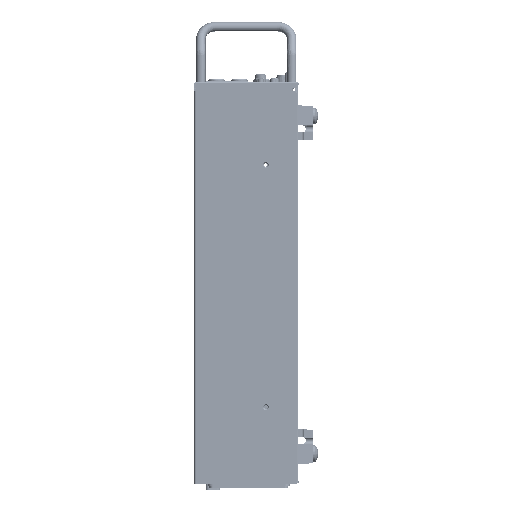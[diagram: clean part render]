
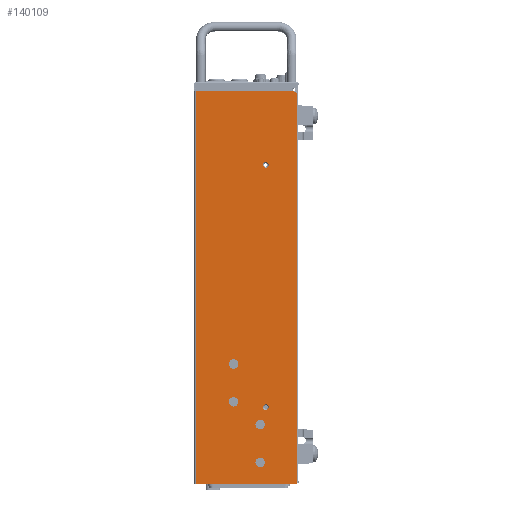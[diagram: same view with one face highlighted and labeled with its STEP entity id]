
A CAD part, left-side view. The second image highlights one B-rep face of the part: STEP entity #140109.
In plain terms, the highlighted planar face has unit normal (-1, 0, 0).
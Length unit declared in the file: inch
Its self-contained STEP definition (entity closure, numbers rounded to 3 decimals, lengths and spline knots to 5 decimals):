
#138465=DIRECTION('',(0.,1.,0.));
#138466=VECTOR('',#138465,3.212);
#138467=CARTESIAN_POINT('',(-8.726,0.12,0.));
#138468=LINE('',#138467,#138466);
#138518=CARTESIAN_POINT('',(-8.726,0.12,-0.12));
#138519=DIRECTION('',(-1.,0.,0.));
#138520=DIRECTION('',(0.,-1.,0.));
#138521=AXIS2_PLACEMENT_3D('',#138518,#138519,#138520);
#138599=CARTESIAN_POINT('',(-8.726,1.21,-12.257));
#138600=DIRECTION('',(1.,0.,0.));
#138601=DIRECTION('',(0.,0.,-1.));
#138602=AXIS2_PLACEMENT_3D('',#138599,#138600,#138601);
#138604=CARTESIAN_POINT('',(-8.726,1.21,-12.257));
#138605=DIRECTION('',(1.,0.,0.));
#138606=DIRECTION('',(0.,0.,1.));
#138607=AXIS2_PLACEMENT_3D('',#138604,#138605,#138606);
#138609=CARTESIAN_POINT('',(-8.726,1.21,-11.007));
#138610=DIRECTION('',(1.,0.,0.));
#138611=DIRECTION('',(0.,0.,-1.));
#138612=AXIS2_PLACEMENT_3D('',#138609,#138610,#138611);
#138614=CARTESIAN_POINT('',(-8.726,1.21,-11.007));
#138615=DIRECTION('',(1.,0.,0.));
#138616=DIRECTION('',(0.,0.,1.));
#138617=AXIS2_PLACEMENT_3D('',#138614,#138615,#138616);
#138619=CARTESIAN_POINT('',(-8.726,2.09,-10.257));
#138620=DIRECTION('',(1.,0.,0.));
#138621=DIRECTION('',(0.,0.,-1.));
#138622=AXIS2_PLACEMENT_3D('',#138619,#138620,#138621);
#138624=CARTESIAN_POINT('',(-8.726,2.09,-10.257));
#138625=DIRECTION('',(1.,0.,0.));
#138626=DIRECTION('',(0.,0.,1.));
#138627=AXIS2_PLACEMENT_3D('',#138624,#138625,#138626);
#138629=CARTESIAN_POINT('',(-8.726,2.09,-9.007));
#138630=DIRECTION('',(1.,0.,0.));
#138631=DIRECTION('',(0.,0.,-1.));
#138632=AXIS2_PLACEMENT_3D('',#138629,#138630,#138631);
#138634=CARTESIAN_POINT('',(-8.726,2.09,-9.007));
#138635=DIRECTION('',(1.,0.,0.));
#138636=DIRECTION('',(0.,0.,1.));
#138637=AXIS2_PLACEMENT_3D('',#138634,#138635,#138636);
#138639=DIRECTION('',(0.,0.,-1.));
#138640=VECTOR('',#138639,12.865);
#138641=CARTESIAN_POINT('',(-8.726,0.,-0.12));
#138642=LINE('',#138641,#138640);
#138815=CARTESIAN_POINT('',(-8.726,1.02,-10.431));
#138816=DIRECTION('',(1.,0.,0.));
#138817=DIRECTION('',(0.,0.,-1.));
#138818=AXIS2_PLACEMENT_3D('',#138815,#138816,#138817);
#138833=CARTESIAN_POINT('',(-8.726,1.02,-10.431));
#138834=DIRECTION('',(1.,0.,0.));
#138835=DIRECTION('',(0.,0.,1.));
#138836=AXIS2_PLACEMENT_3D('',#138833,#138834,#138835);
#138887=CARTESIAN_POINT('',(-8.726,1.02,-2.431));
#138888=DIRECTION('',(1.,0.,0.));
#138889=DIRECTION('',(0.,0.,-1.));
#138890=AXIS2_PLACEMENT_3D('',#138887,#138888,#138889);
#138897=CARTESIAN_POINT('',(-8.726,1.02,-2.431));
#138898=DIRECTION('',(1.,0.,0.));
#138899=DIRECTION('',(0.,0.,1.));
#138900=AXIS2_PLACEMENT_3D('',#138897,#138898,#138899);
#139021=DIRECTION('',(0.,1.,0.));
#139022=VECTOR('',#139021,3.332);
#139023=CARTESIAN_POINT('',(-8.726,0.,-12.985));
#139024=LINE('',#139023,#139022);
#139186=DIRECTION('',(0.,0.,1.));
#139187=VECTOR('',#139186,12.985);
#139188=CARTESIAN_POINT('',(-8.726,3.332,-12.985));
#139189=LINE('',#139188,#139187);
#139601=CARTESIAN_POINT('',(-8.726,3.332,0.));
#139602=VERTEX_POINT('',#139601);
#139603=CARTESIAN_POINT('',(-8.726,3.332,-12.985));
#139604=VERTEX_POINT('',#139603);
#139605=CARTESIAN_POINT('',(-8.726,0.,-12.985));
#139606=VERTEX_POINT('',#139605);
#139653=CARTESIAN_POINT('',(-8.726,1.21,-12.413));
#139654=CARTESIAN_POINT('',(-8.726,1.21,-12.101));
#139655=VERTEX_POINT('',#139653);
#139656=VERTEX_POINT('',#139654);
#139657=CARTESIAN_POINT('',(-8.726,1.21,-11.163));
#139658=CARTESIAN_POINT('',(-8.726,1.21,-10.851));
#139659=VERTEX_POINT('',#139657);
#139660=VERTEX_POINT('',#139658);
#139661=CARTESIAN_POINT('',(-8.726,2.09,-10.413));
#139662=CARTESIAN_POINT('',(-8.726,2.09,-10.101));
#139663=VERTEX_POINT('',#139661);
#139664=VERTEX_POINT('',#139662);
#139665=CARTESIAN_POINT('',(-8.726,2.09,-9.163));
#139666=CARTESIAN_POINT('',(-8.726,2.09,-8.851));
#139667=VERTEX_POINT('',#139665);
#139668=VERTEX_POINT('',#139666);
#139749=CARTESIAN_POINT('',(-8.726,1.02,-2.5235));
#139750=CARTESIAN_POINT('',(-8.726,1.02,-2.3385));
#139751=VERTEX_POINT('',#139749);
#139752=VERTEX_POINT('',#139750);
#139757=CARTESIAN_POINT('',(-8.726,1.02,-10.3385));
#139758=CARTESIAN_POINT('',(-8.726,1.02,-10.5235));
#139759=VERTEX_POINT('',#139757);
#139760=VERTEX_POINT('',#139758);
#139861=CARTESIAN_POINT('',(-8.726,0.12,0.));
#139863=VERTEX_POINT('',#139861);
#139867=CARTESIAN_POINT('',(-8.726,0.,-0.12));
#139868=VERTEX_POINT('',#139867);
#140059=CARTESIAN_POINT('',(-8.726,0.,0.));
#140060=DIRECTION('',(-1.,0.,0.));
#140061=DIRECTION('',(0.,1.,0.));
#140062=AXIS2_PLACEMENT_3D('',#140059,#140060,#140061);
#140063=PLANE('',#140062);
#140064=ORIENTED_EDGE('',*,*,#139971,.F.);
#140066=ORIENTED_EDGE('',*,*,#140065,.T.);
#140068=ORIENTED_EDGE('',*,*,#140067,.T.);
#140070=ORIENTED_EDGE('',*,*,#140069,.T.);
#140071=ORIENTED_EDGE('',*,*,#139924,.F.);
#140072=EDGE_LOOP('',(#140064,#140066,#140068,#140070,#140071));
#140073=FACE_OUTER_BOUND('',#140072,.F.);
#140075=ORIENTED_EDGE('',*,*,#140074,.F.);
#140077=ORIENTED_EDGE('',*,*,#140076,.F.);
#140078=EDGE_LOOP('',(#140075,#140077));
#140079=FACE_BOUND('',#140078,.F.);
#140081=ORIENTED_EDGE('',*,*,#140080,.F.);
#140083=ORIENTED_EDGE('',*,*,#140082,.F.);
#140084=EDGE_LOOP('',(#140081,#140083));
#140085=FACE_BOUND('',#140084,.F.);
#140087=ORIENTED_EDGE('',*,*,#140086,.F.);
#140089=ORIENTED_EDGE('',*,*,#140088,.F.);
#140090=EDGE_LOOP('',(#140087,#140089));
#140091=FACE_BOUND('',#140090,.F.);
#140093=ORIENTED_EDGE('',*,*,#140092,.F.);
#140095=ORIENTED_EDGE('',*,*,#140094,.F.);
#140096=EDGE_LOOP('',(#140093,#140095));
#140097=FACE_BOUND('',#140096,.F.);
#140099=ORIENTED_EDGE('',*,*,#140098,.F.);
#140101=ORIENTED_EDGE('',*,*,#140100,.F.);
#140102=EDGE_LOOP('',(#140099,#140101));
#140103=FACE_BOUND('',#140102,.F.);
#140104=ORIENTED_EDGE('',*,*,#140033,.F.);
#140106=ORIENTED_EDGE('',*,*,#140105,.F.);
#140107=EDGE_LOOP('',(#140104,#140106));
#140108=FACE_BOUND('',#140107,.F.);
#140109=ADVANCED_FACE('',(#140073,#140079,#140085,#140091,#140097,#140103,
#140108),#140063,.T.);
#138522=CIRCLE('',#138521,0.12);
#138603=CIRCLE('',#138602,0.156);
#138608=CIRCLE('',#138607,0.156);
#138613=CIRCLE('',#138612,0.156);
#138618=CIRCLE('',#138617,0.156);
#138623=CIRCLE('',#138622,0.156);
#138628=CIRCLE('',#138627,0.156);
#138633=CIRCLE('',#138632,0.156);
#138638=CIRCLE('',#138637,0.156);
#138819=CIRCLE('',#138818,0.0925);
#138837=CIRCLE('',#138836,0.0925);
#138891=CIRCLE('',#138890,0.0925);
#138901=CIRCLE('',#138900,0.0925);
#139924=EDGE_CURVE('',#139863,#139602,#138468,.T.);
#139971=EDGE_CURVE('',#139868,#139863,#138522,.T.);
#140033=EDGE_CURVE('',#139655,#139656,#138603,.T.);
#140065=EDGE_CURVE('',#139868,#139606,#138642,.T.);
#140067=EDGE_CURVE('',#139606,#139604,#139024,.T.);
#140069=EDGE_CURVE('',#139604,#139602,#139189,.T.);
#140074=EDGE_CURVE('',#139659,#139660,#138613,.T.);
#140076=EDGE_CURVE('',#139660,#139659,#138618,.T.);
#140080=EDGE_CURVE('',#139663,#139664,#138623,.T.);
#140082=EDGE_CURVE('',#139664,#139663,#138628,.T.);
#140086=EDGE_CURVE('',#139667,#139668,#138633,.T.);
#140088=EDGE_CURVE('',#139668,#139667,#138638,.T.);
#140092=EDGE_CURVE('',#139760,#139759,#138819,.T.);
#140094=EDGE_CURVE('',#139759,#139760,#138837,.T.);
#140098=EDGE_CURVE('',#139751,#139752,#138891,.T.);
#140100=EDGE_CURVE('',#139752,#139751,#138901,.T.);
#140105=EDGE_CURVE('',#139656,#139655,#138608,.T.);
